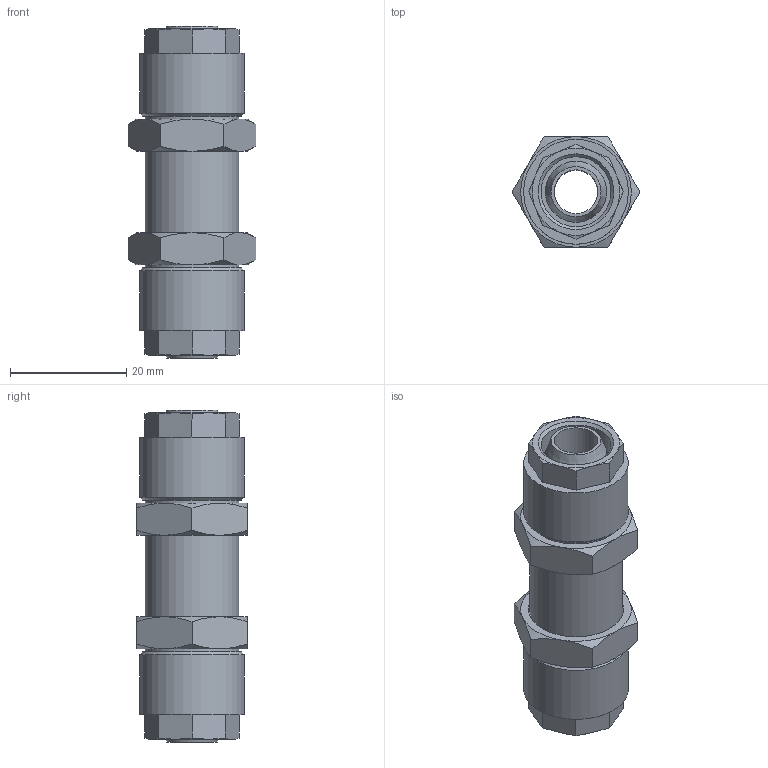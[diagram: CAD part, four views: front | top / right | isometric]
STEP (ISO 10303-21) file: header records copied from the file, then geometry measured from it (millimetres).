
FILE_DESCRIPTION(/* description */ (''),/* implementation_level */ '2;1');
FILE_NAME(/* name */ '10512_304_129_18.07.17',/* time_stamp */ '2017-07-18T10:30:12+02:00',/* author */ (''),/* organization */ (''),/* preprocessor_version */ 'ST-DEVELOPER v16.5',/* originating_system */ 'HiCAD 2016 2102.2 Build 618',/* authorisation */ '');
FILE_SCHEMA (('AUTOMOTIVE_DESIGN { 1 0 10303 214 1 1 1 1 }'));
Length unit declared in the file: millimetre
Products named in the file (6): Root; R10512; Kontermutter; 17008
Assembly tree (5 placements, depth 2):
  Root
    R10512
    Kontermutter
    Kontermutter
    17008
    17008
Bounding box: 21.94 x 19 x 57 mm (x, y, z)
Volume: 10823.4 mm3; surface area: 9196.7 mm2
Topology: 5 solids, 5 shells, 114 faces, 248 edges, 150 vertices
Faces by surface type: cone 56, plane 44, cylinder 12, torus 2
Full cylindrical faces by diameter (mm): 7.5 x1, 9.5 x2, 12 x2, 14.73 x4, 16 x1, 18 x2
Entity records: 5096 total; most frequent: DIRECTION 616, CARTESIAN_POINT 468, PRESENTATION_STYLE_ASSIGNMENT 417, COLOUR_RGB 413, DRAUGHTING_PRE_DEFINED_CURVE_FONT 412, CURVE_STYLE 412, OVER_RIDING_STYLED_ITEM 412, ORIENTED_EDGE 412
